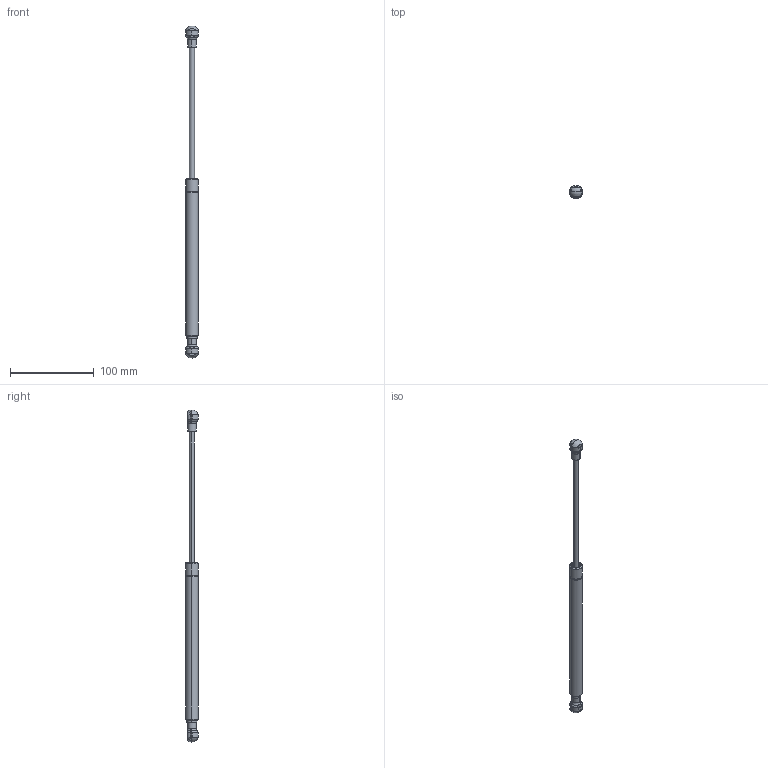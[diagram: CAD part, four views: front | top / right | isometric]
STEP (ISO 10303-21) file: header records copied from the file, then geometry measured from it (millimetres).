
FILE_DESCRIPTION (( 'STEP AP214' ), '1' );
FILE_NAME ('GS06-0550PE10.STEP', '2011-03-14T20:35:26', ( 'user' ), ( '' ), 'SwSTEP 2.0', 'SolidWorks 2011', '' );
FILE_SCHEMA (( 'AUTOMOTIVE_DESIGN' ));
Length unit declared in the file: millimetre
Products named in the file (5): socket; GS06-0550PE10-NC; GS06-0550PE10-SHAFT; GS06-0550PE10; GS06-0550PE10-TUBE
Assembly tree (5 placements, depth 3):
  GS06-0550PE10
    GS06-0550PE10-NC
      GS06-0550PE10-TUBE
      GS06-0550PE10-SHAFT
    socket  x2
Bounding box: 15.5 x 15.3 x 397.5 mm (x, y, z)
Volume: 37700.2 mm3; surface area: 19014.9 mm2
Topology: 4 solids, 4 shells, 185 faces, 508 edges, 334 vertices
Faces by surface type: plane 77, cylinder 68, torus 20, sphere 16, cone 4
Entity records: 4574 total; most frequent: CARTESIAN_POINT 898, DIRECTION 604, ORIENTED_EDGE 556, EDGE_CURVE 278, AXIS2_PLACEMENT_3D 250, VERTEX_POINT 181, CIRCLE 134, EDGE_LOOP 113
